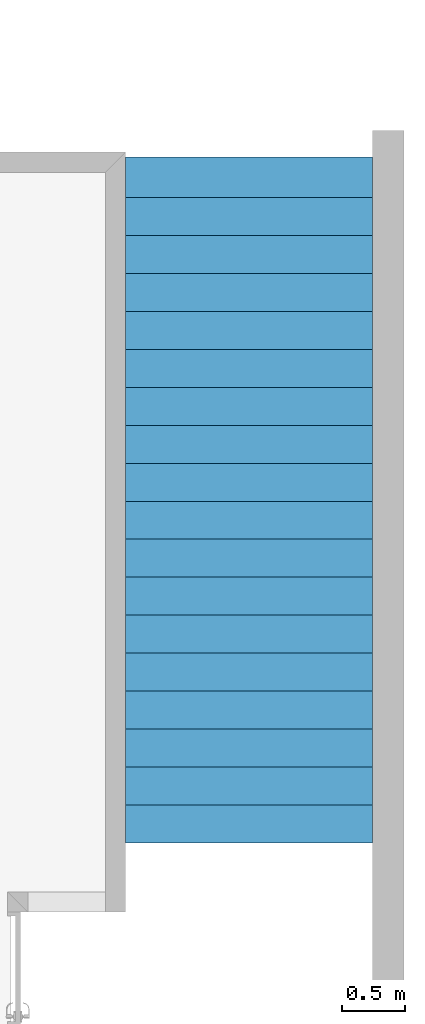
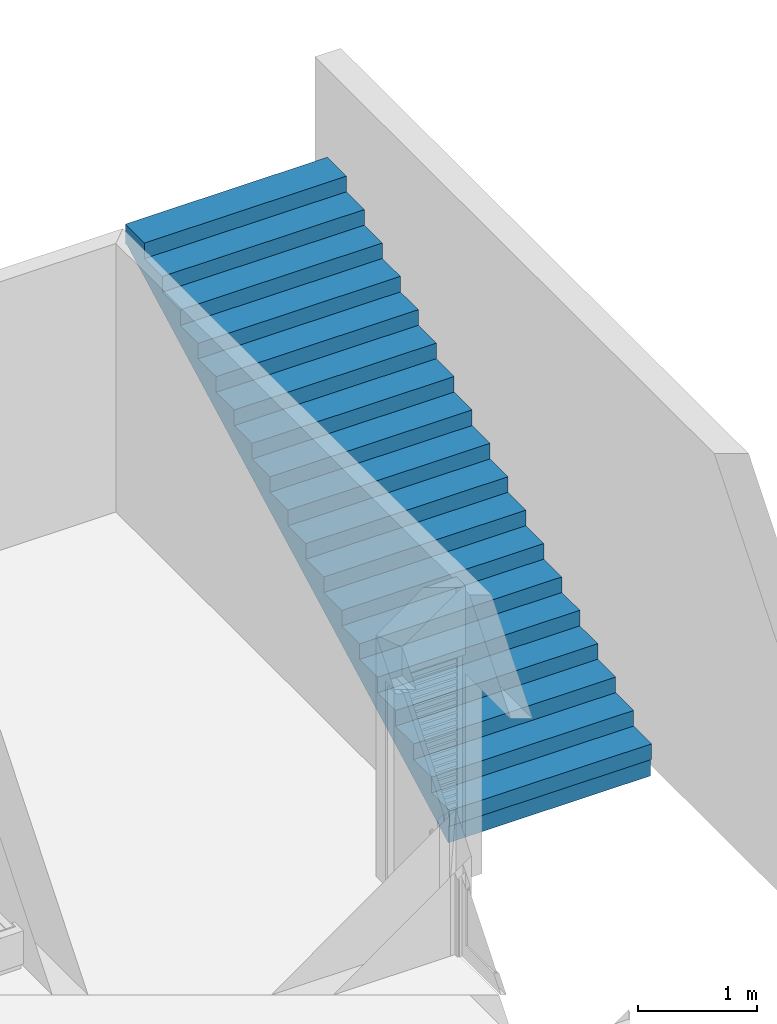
# One storey, part 42 of 45: 1 stair.
"""IFC2X3 building model written with IfcOpenShell, lengths in metres."""

from ifc_helpers import new_model, entity, si_unit, converted_unit, money_unit, direction, frame, origin_with_axes, place, context, subcontext, project, spatial, faceted_brep, material, element, save


model = new_model("IFC2X3")

# Units and contexts
model_context = context("Model", 3, precision=1e-05, world=origin_with_axes(), true_north=direction((0.0, 1.0)))
body_context = subcontext(model_context, "Body", "Model", "MODEL_VIEW")
ifc_project = project(units=[si_unit("LENGTHUNIT", "METRE"), si_unit("AREAUNIT", "SQUARE_METRE"), si_unit("VOLUMEUNIT", "CUBIC_METRE"), converted_unit("PLANEANGLEUNIT", "DEGREE", entity("IfcPlaneAngleMeasure", 0.0174532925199), si_unit("PLANEANGLEUNIT", "RADIAN"), dimensions=[0, 0, 0, 0, 0, 0, 0]), si_unit("SOLIDANGLEUNIT", "STERADIAN"), money_unit("EUR"), converted_unit("TIMEUNIT", "Year", entity("IfcTimeMeasure", 31556926.0), si_unit("TIMEUNIT", "SECOND"), dimensions=[0, 0, 0, 0, 0, 0, 0]), si_unit("MASSUNIT", "GRAM"), si_unit("THERMODYNAMICTEMPERATUREUNIT", "DEGREE_CELSIUS"), si_unit("LUMINOUSINTENSITYUNIT", "LUMEN")], contexts=[model_context])

# Site, building, storey
site_placement = place(None, origin_with_axes())
site = spatial("IfcSite", under=ifc_project, at=site_placement, Name="Site", CompositionType="ELEMENT")
building_placement = place(site_placement, origin_with_axes())
building = spatial("IfcBuilding", under=site, at=building_placement, Name="Bâtiment", CompositionType="ELEMENT")
storey_placement = place(building_placement, origin_with_axes())
storey = spatial("IfcBuildingStorey", under=building, at=storey_placement, Name="NIVEAU BAS GYMNASE", CompositionType="ELEMENT", Elevation=0.0)

# Stair
ifc_material = material(Name="Placomur")
stair_placement = place(storey_placement, frame((67.258457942, 16.298815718, -0.05), z_axis=(0.0, 0.0, 1.0), x_axis=(1.0, 0.0, 0.0)))
element("IfcStair", 1, at=stair_placement, inside=storey, material=ifc_material, Name="ESC-004", ShapeType="NOTDEFINED", context=body_context, shape_type="Brep", body=[
    faceted_brep([(0.0, 0.0, 0.0), (0.0, 0.0, 0.159444), (1.9583, 0.0, 0.159444), (1.9583, 0.0, 0.0), (0.0, -0.02, 0.0), (0.0, -0.02, 0.159444), (1.9583, -0.02, 0.159444), (1.9583, -0.02, 0.0)], [[[0, 1, 2, 3]], [[0, 4, 5, 1]], [[1, 5, 6, 2]], [[3, 2, 6, 7]], [[4, 0, 3, 7]], [[5, 4, 7, 6]]]),
    faceted_brep([(0.0, 5.098889, 2.710556), (0.0, 5.118889, 2.710556), (1.9583, 5.118889, 2.710556), (1.9583, 5.098889, 2.710556), (0.0, 5.098889, 2.87), (0.0, 5.118889, 2.87), (1.9583, 5.118889, 2.87), (1.9583, 5.098889, 2.87)], [[[0, 1, 2, 3]], [[0, 4, 5, 1]], [[1, 5, 6, 2]], [[3, 2, 6, 7]], [[4, 0, 3, 7]], [[5, 4, 7, 6]]]),
    faceted_brep([(0.0, 4.797778, 2.551111), (0.0, 4.817778, 2.551111), (1.9583, 4.817778, 2.551111), (1.9583, 4.797778, 2.551111), (0.0, 4.797778, 2.710556), (0.0, 4.817778, 2.710556), (1.9583, 4.817778, 2.710556), (1.9583, 4.797778, 2.710556)], [[[0, 1, 2, 3]], [[0, 4, 5, 1]], [[1, 5, 6, 2]], [[3, 2, 6, 7]], [[4, 0, 3, 7]], [[5, 4, 7, 6]]]),
    faceted_brep([(0.0, 4.496667, 2.391667), (0.0, 4.516667, 2.391667), (1.9583, 4.516667, 2.391667), (1.9583, 4.496667, 2.391667), (0.0, 4.496667, 2.551111), (0.0, 4.516667, 2.551111), (1.9583, 4.516667, 2.551111), (1.9583, 4.496667, 2.551111)], [[[0, 1, 2, 3]], [[0, 4, 5, 1]], [[1, 5, 6, 2]], [[3, 2, 6, 7]], [[4, 0, 3, 7]], [[5, 4, 7, 6]]]),
    faceted_brep([(0.0, 4.195556, 2.232222), (0.0, 4.215556, 2.232222), (1.9583, 4.215556, 2.232222), (1.9583, 4.195556, 2.232222), (0.0, 4.195556, 2.391667), (0.0, 4.215556, 2.391667), (1.9583, 4.215556, 2.391667), (1.9583, 4.195556, 2.391667)], [[[0, 1, 2, 3]], [[0, 4, 5, 1]], [[1, 5, 6, 2]], [[3, 2, 6, 7]], [[4, 0, 3, 7]], [[5, 4, 7, 6]]]),
    faceted_brep([(0.0, 3.894444, 2.072778), (0.0, 3.914444, 2.072778), (1.9583, 3.914444, 2.072778), (1.9583, 3.894444, 2.072778), (0.0, 3.894444, 2.232222), (0.0, 3.914444, 2.232222), (1.9583, 3.914444, 2.232222), (1.9583, 3.894444, 2.232222)], [[[0, 1, 2, 3]], [[0, 4, 5, 1]], [[1, 5, 6, 2]], [[3, 2, 6, 7]], [[4, 0, 3, 7]], [[5, 4, 7, 6]]]),
    faceted_brep([(0.0, 3.593333, 1.913333), (0.0, 3.613333, 1.913333), (1.9583, 3.613333, 1.913333), (1.9583, 3.593333, 1.913333), (0.0, 3.593333, 2.072778), (0.0, 3.613333, 2.072778), (1.9583, 3.613333, 2.072778), (1.9583, 3.593333, 2.072778)], [[[0, 1, 2, 3]], [[0, 4, 5, 1]], [[1, 5, 6, 2]], [[3, 2, 6, 7]], [[4, 0, 3, 7]], [[5, 4, 7, 6]]]),
    faceted_brep([(0.0, 3.292222, 1.753889), (0.0, 3.312222, 1.753889), (1.9583, 3.312222, 1.753889), (1.9583, 3.292222, 1.753889), (0.0, 3.292222, 1.913333), (0.0, 3.312222, 1.913333), (1.9583, 3.312222, 1.913333), (1.9583, 3.292222, 1.913333)], [[[0, 1, 2, 3]], [[0, 4, 5, 1]], [[1, 5, 6, 2]], [[3, 2, 6, 7]], [[4, 0, 3, 7]], [[5, 4, 7, 6]]]),
    faceted_brep([(0.0, 2.991111, 1.594444), (0.0, 3.011111, 1.594444), (1.9583, 3.011111, 1.594444), (1.9583, 2.991111, 1.594444), (0.0, 2.991111, 1.753889), (0.0, 3.011111, 1.753889), (1.9583, 3.011111, 1.753889), (1.9583, 2.991111, 1.753889)], [[[0, 1, 2, 3]], [[0, 4, 5, 1]], [[1, 5, 6, 2]], [[3, 2, 6, 7]], [[4, 0, 3, 7]], [[5, 4, 7, 6]]]),
    faceted_brep([(0.0, 2.69, 1.435), (0.0, 2.71, 1.435), (1.9583, 2.71, 1.435), (1.9583, 2.69, 1.435), (0.0, 2.69, 1.594444), (0.0, 2.71, 1.594444), (1.9583, 2.71, 1.594444), (1.9583, 2.69, 1.594444)], [[[0, 1, 2, 3]], [[0, 4, 5, 1]], [[1, 5, 6, 2]], [[3, 2, 6, 7]], [[4, 0, 3, 7]], [[5, 4, 7, 6]]]),
    faceted_brep([(0.0, 2.388889, 1.275556), (0.0, 2.408889, 1.275556), (1.9583, 2.408889, 1.275556), (1.9583, 2.388889, 1.275556), (0.0, 2.388889, 1.435), (0.0, 2.408889, 1.435), (1.9583, 2.408889, 1.435), (1.9583, 2.388889, 1.435)], [[[0, 1, 2, 3]], [[0, 4, 5, 1]], [[1, 5, 6, 2]], [[3, 2, 6, 7]], [[4, 0, 3, 7]], [[5, 4, 7, 6]]]),
    faceted_brep([(0.0, 2.087778, 1.116111), (0.0, 2.107778, 1.116111), (1.9583, 2.107778, 1.116111), (1.9583, 2.087778, 1.116111), (0.0, 2.087778, 1.275556), (0.0, 2.107778, 1.275556), (1.9583, 2.107778, 1.275556), (1.9583, 2.087778, 1.275556)], [[[0, 1, 2, 3]], [[0, 4, 5, 1]], [[1, 5, 6, 2]], [[3, 2, 6, 7]], [[4, 0, 3, 7]], [[5, 4, 7, 6]]]),
    faceted_brep([(0.0, 1.786667, 0.956667), (0.0, 1.806667, 0.956667), (1.9583, 1.806667, 0.956667), (1.9583, 1.786667, 0.956667), (0.0, 1.786667, 1.116111), (0.0, 1.806667, 1.116111), (1.9583, 1.806667, 1.116111), (1.9583, 1.786667, 1.116111)], [[[0, 1, 2, 3]], [[0, 4, 5, 1]], [[1, 5, 6, 2]], [[3, 2, 6, 7]], [[4, 0, 3, 7]], [[5, 4, 7, 6]]]),
    faceted_brep([(0.0, 1.485556, 0.797222), (0.0, 1.505556, 0.797222), (1.9583, 1.505556, 0.797222), (1.9583, 1.485556, 0.797222), (0.0, 1.485556, 0.956667), (0.0, 1.505556, 0.956667), (1.9583, 1.505556, 0.956667), (1.9583, 1.485556, 0.956667)], [[[0, 1, 2, 3]], [[0, 4, 5, 1]], [[1, 5, 6, 2]], [[3, 2, 6, 7]], [[4, 0, 3, 7]], [[5, 4, 7, 6]]]),
    faceted_brep([(0.0, 1.184444, 0.637778), (0.0, 1.204444, 0.637778), (1.9583, 1.204444, 0.637778), (1.9583, 1.184444, 0.637778), (0.0, 1.184444, 0.797222), (0.0, 1.204444, 0.797222), (1.9583, 1.204444, 0.797222), (1.9583, 1.184444, 0.797222)], [[[0, 1, 2, 3]], [[0, 4, 5, 1]], [[1, 5, 6, 2]], [[3, 2, 6, 7]], [[4, 0, 3, 7]], [[5, 4, 7, 6]]]),
    faceted_brep([(0.0, 0.883333, 0.478333), (0.0, 0.903333, 0.478333), (1.9583, 0.903333, 0.478333), (1.9583, 0.883333, 0.478333), (0.0, 0.883333, 0.637778), (0.0, 0.903333, 0.637778), (1.9583, 0.903333, 0.637778), (1.9583, 0.883333, 0.637778)], [[[0, 1, 2, 3]], [[0, 4, 5, 1]], [[1, 5, 6, 2]], [[3, 2, 6, 7]], [[4, 0, 3, 7]], [[5, 4, 7, 6]]]),
    faceted_brep([(0.0, 0.582222, 0.318889), (0.0, 0.602222, 0.318889), (1.9583, 0.602222, 0.318889), (1.9583, 0.582222, 0.318889), (0.0, 0.582222, 0.478333), (0.0, 0.602222, 0.478333), (1.9583, 0.602222, 0.478333), (1.9583, 0.582222, 0.478333)], [[[0, 1, 2, 3]], [[0, 4, 5, 1]], [[1, 5, 6, 2]], [[3, 2, 6, 7]], [[4, 0, 3, 7]], [[5, 4, 7, 6]]]),
    faceted_brep([(0.0, 0.281111, 0.159444), (0.0, 0.301111, 0.159444), (1.9583, 0.301111, 0.159444), (1.9583, 0.281111, 0.159444), (0.0, 0.281111, 0.318889), (0.0, 0.301111, 0.318889), (1.9583, 0.301111, 0.318889), (1.9583, 0.281111, 0.318889)], [[[0, 1, 2, 3]], [[0, 4, 5, 1]], [[1, 5, 6, 2]], [[3, 2, 6, 7]], [[4, 0, 3, 7]], [[5, 4, 7, 6]]]),
    faceted_brep([(0.0, 0.0, 0.0), (0.0, 0.0, -0.181047), (1.9583, 0.0, -0.181047), (1.9583, 0.0, 0.0), (0.0, 0.0, 0.159444), (0.0, 0.301111, 0.159444), (0.0, 0.301111, 0.318889), (0.0, 0.602222, 0.318889), (0.0, 0.602222, 0.478333), (0.0, 0.903333, 0.478333), (0.0, 0.903333, 0.637778), (0.0, 1.204444, 0.637778), (0.0, 1.204444, 0.797222), (0.0, 1.505556, 0.797222), (0.0, 1.505556, 0.956667), (0.0, 1.806667, 0.956667), (0.0, 1.806667, 1.116111), (0.0, 2.107778, 1.116111), (0.0, 2.107778, 1.275556), (0.0, 2.408889, 1.275556), (0.0, 2.408889, 1.435), (0.0, 2.71, 1.435), (0.0, 2.71, 1.594444), (0.0, 3.011111, 1.594444), (0.0, 3.011111, 1.753889), (0.0, 3.312222, 1.753889), (0.0, 3.312222, 1.913333), (0.0, 3.613333, 1.913333), (0.0, 3.613333, 2.072778), (0.0, 3.914444, 2.072778), (0.0, 3.914444, 2.232222), (0.0, 4.215556, 2.232222), (0.0, 4.215556, 2.391667), (0.0, 4.516667, 2.391667), (0.0, 4.516667, 2.551111), (0.0, 4.817778, 2.551111), (0.0, 4.817778, 2.710556), (0.0, 5.118889, 2.710556), (0.0, 5.118889, 2.87), (0.0, 5.42, 2.87), (0.0, 5.42, 2.67), (0.0, 5.384207, 2.67), (1.9583, 5.384207, 2.67), (1.9583, 5.42, 2.67), (1.9583, 5.42, 2.87), (1.9583, 5.118889, 2.87), (1.9583, 5.118889, 2.710556), (1.9583, 4.817778, 2.710556), (1.9583, 4.817778, 2.551111), (1.9583, 4.516667, 2.551111), (1.9583, 4.516667, 2.391667), (1.9583, 4.215556, 2.391667), (1.9583, 4.215556, 2.232222), (1.9583, 3.914444, 2.232222), (1.9583, 3.914444, 2.072778), (1.9583, 3.613333, 2.072778), (1.9583, 3.613333, 1.913333), (1.9583, 3.312222, 1.913333), (1.9583, 3.312222, 1.753889), (1.9583, 3.011111, 1.753889), (1.9583, 3.011111, 1.594444), (1.9583, 2.71, 1.594444), (1.9583, 2.71, 1.435), (1.9583, 2.408889, 1.435), (1.9583, 2.408889, 1.275556), (1.9583, 2.107778, 1.275556), (1.9583, 2.107778, 1.116111), (1.9583, 1.806667, 1.116111), (1.9583, 1.806667, 0.956667), (1.9583, 1.505556, 0.956667), (1.9583, 1.505556, 0.797222), (1.9583, 1.204444, 0.797222), (1.9583, 1.204444, 0.637778), (1.9583, 0.903333, 0.637778), (1.9583, 0.903333, 0.478333), (1.9583, 0.602222, 0.478333), (1.9583, 0.602222, 0.318889), (1.9583, 0.301111, 0.318889), (1.9583, 0.301111, 0.159444), (1.9583, 0.0, 0.159444)], [[[0, 1, 2, 3]], [[0, 4, 5, 6, 7, 8, 9, 10, 11, 12, 13, 14, 15, 16, 17, 18, 19, 20, 21, 22, 23, 24, 25, 26, 27, 28, 29, 30, 31, 32, 33, 34, 35, 36, 37, 38, 39, 40, 41, 1]], [[1, 41, 42, 2]], [[3, 2, 42, 43, 44, 45, 46, 47, 48, 49, 50, 51, 52, 53, 54, 55, 56, 57, 58, 59, 60, 61, 62, 63, 64, 65, 66, 67, 68, 69, 70, 71, 72, 73, 74, 75, 76, 77, 78, 79]], [[4, 0, 3, 79]], [[5, 4, 79, 78]], [[6, 5, 78, 77]], [[7, 6, 77, 76]], [[8, 7, 76, 75]], [[9, 8, 75, 74]], [[10, 9, 74, 73]], [[11, 10, 73, 72]], [[12, 11, 72, 71]], [[13, 12, 71, 70]], [[14, 13, 70, 69]], [[15, 14, 69, 68]], [[16, 15, 68, 67]], [[17, 16, 67, 66]], [[18, 17, 66, 65]], [[19, 18, 65, 64]], [[20, 19, 64, 63]], [[21, 20, 63, 62]], [[22, 21, 62, 61]], [[23, 22, 61, 60]], [[24, 23, 60, 59]], [[25, 24, 59, 58]], [[26, 25, 58, 57]], [[27, 26, 57, 56]], [[28, 27, 56, 55]], [[29, 28, 55, 54]], [[30, 29, 54, 53]], [[31, 30, 53, 52]], [[32, 31, 52, 51]], [[33, 32, 51, 50]], [[34, 33, 50, 49]], [[35, 34, 49, 48]], [[36, 35, 48, 47]], [[37, 36, 47, 46]], [[38, 37, 46, 45]], [[39, 38, 45, 44]], [[40, 39, 44, 43]], [[41, 40, 43, 42]]]),
])

save(model, "model.ifc")
